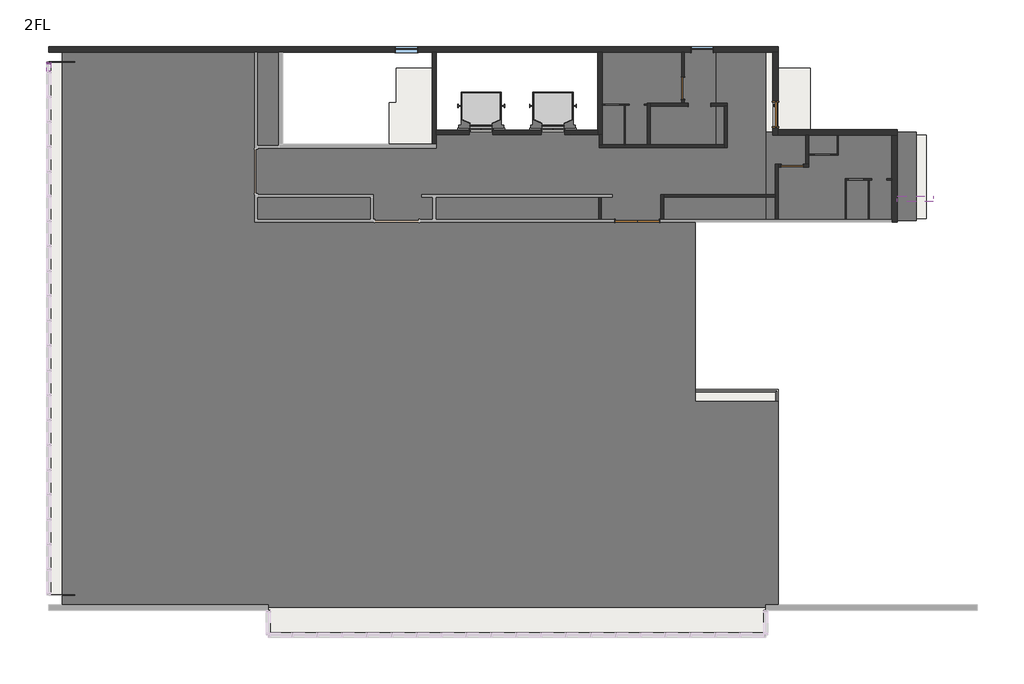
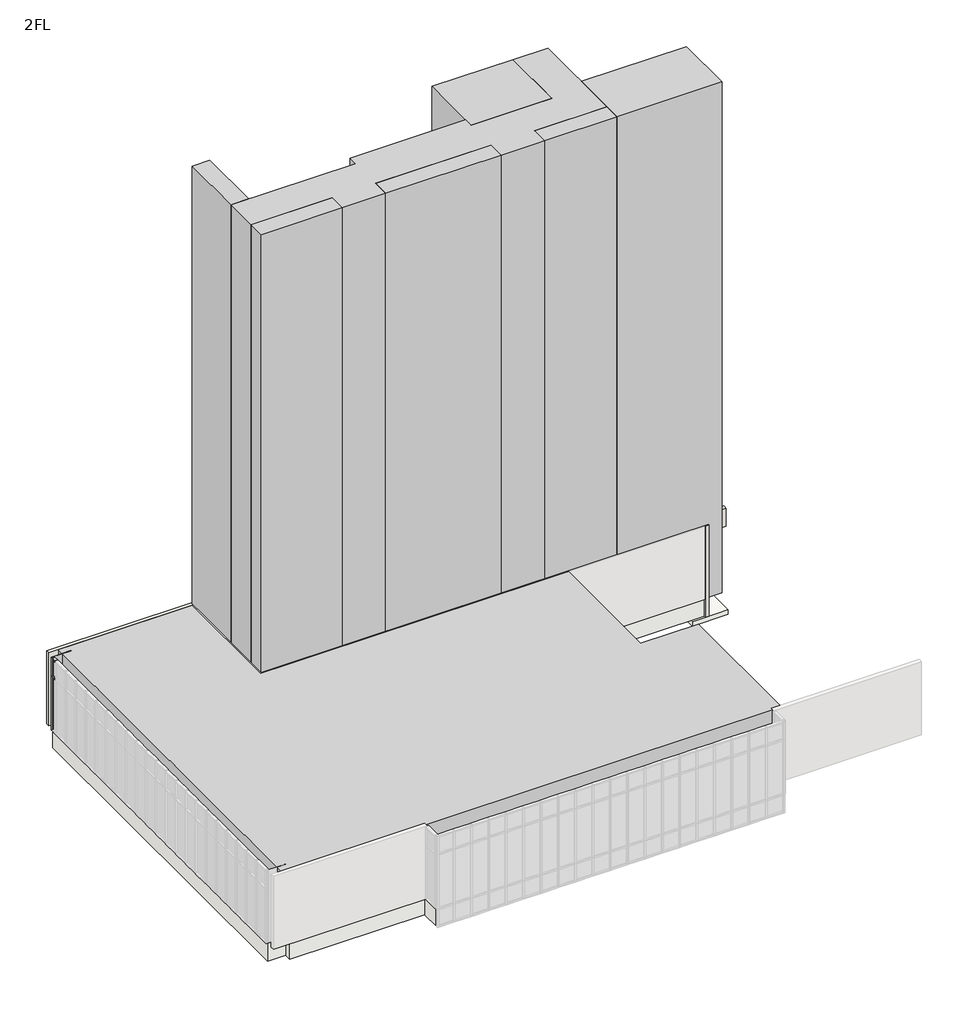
# One storey, part 4 of 4: 27 walls, 16 proxies, 5 doors, 4 flow terminals, 4 members, 3 slabs, 2 plates, 2 windows, 1 railing.
"""IFC4 building model written with IfcOpenShell, lengths in millimetres."""

from ifc_helpers import new_model, si_unit, frame, origin, place, context, project, spatial, polyline, outline, extrude, faceted_brep, transform, mapped, element, save
from components import specialty_equipment_d755c605, d150_h1500_9903e80e, w550_h2000_5054dc5e, w600_h2000_381ad4ff, door_1de376c6, w800h2000_3f366617, w800h2000_fc627520, w800h2000_d76b1b72, w900h2000_8d150256, flow_terminal_205c4ddb, member_70x150_1b280ac3, member_70x150_76429c73, member_70x150_a15bb337, member_70x150_da24903b, plate_d1366ea1, plate_ab860a3c, railing_652278a1, w800_h1100_2b598eca

model = new_model("IFC4")

# Units and contexts
model_context = context("Model", 3, world=origin())
ifc_project = project(units=[si_unit("LENGTHUNIT", "METRE", prefix="MILLI")], contexts=[model_context])

# Site, building, storey
site = spatial("IfcSite", under=ifc_project)
building = spatial("IfcBuilding", under=site)
storey = spatial("IfcBuildingStorey", under=building, Name="2FL", Elevation=4600.0)

# Proxies
placement = place(None, origin())
element("IfcBuildingElementProxy", 1, Name="i_便所 : i_便所", ObjectType="i_便所 : i_便所", at=placement, inside=storey, context=model_context, shape_type="SweptSolid", body=[
    extrude(outline(polyline([(-5195.9784025, 16649.6868987), (-5195.9784025, 13149.6868987), (-9395.9784025, 13149.6868987), (-9395.9784025, 16649.6868987), (-5195.9784025, 16649.6868987)])), frame((0.0, 0.0, 4600.0), z_axis=(0.0, 0.0, 1.0), x_axis=(1.0, 0.0, 0.0)), (0.0, 0.0, 1.0), 28000.0),
])
element("IfcBuildingElementProxy", 2, Name="i_便所1 : i_便所", ObjectType="i_便所1 : i_便所", at=placement, inside=storey, context=model_context, shape_type="SweptSolid", body=[
    extrude(outline(polyline([(2054.0215975, 13649.6868987), (2054.0215975, 10449.6868987), (-3395.9784025, 10449.6868987), (-3395.9784025, 13649.6868987), (2054.0215975, 13649.6868987)])), frame((0.0, 0.0, 4600.0), z_axis=(0.0, 0.0, 1.0), x_axis=(1.0, 0.0, 0.0)), (0.0, 0.0, 1.0), 28000.0),
])
element("IfcBuildingElementProxy", 3, Name="i_PS : i_PS", ObjectType="i_PS : i_PS", at=placement, inside=storey, context=model_context, shape_type="SweptSolid", body=[
    extrude(outline(polyline([(-20945.9784025, 16649.6868987), (-20945.9784025, 13149.6868987), (-21845.9784025, 13149.6868987), (-21845.9784025, 16649.6868987), (-20945.9784025, 16649.6868987)])), frame((0.0, 0.0, 4600.0), z_axis=(0.0, 0.0, 1.0), x_axis=(1.0, 0.0, 0.0)), (0.0, 0.0, 1.0), 28000.0),
])
element("IfcBuildingElementProxy", 4, Name="i_PS1 : i_PS", ObjectType="i_PS1 : i_PS", at=placement, inside=storey, context=model_context, shape_type="SweptSolid", body=[
    extrude(outline(polyline([(-17645.9784025, 11349.6868987), (-17645.9784025, 10449.6868987), (-21845.9784025, 10449.6868987), (-21845.9784025, 11349.6868987), (-17645.9784025, 11349.6868987)])), frame((0.0, 0.0, 4600.0), z_axis=(0.0, 0.0, 1.0), x_axis=(1.0, 0.0, 0.0)), (0.0, 0.0, 1.0), 28000.0),
])
element("IfcBuildingElementProxy", 5, Name="i_PS2 : i_PS", ObjectType="i_PS2 : i_PS", at=placement, inside=storey, context=model_context, shape_type="SweptSolid", body=[
    extrude(outline(polyline([(-9395.9784025, 11349.6868987), (-9395.9784025, 10449.6868987), (-15395.9784025, 10449.6868987), (-15395.9784025, 11349.6868987), (-9395.9784025, 11349.6868987)])), frame((0.0, 0.0, 4600.0), z_axis=(0.0, 0.0, 1.0), x_axis=(1.0, 0.0, 0.0)), (0.0, 0.0, 1.0), 28000.0),
])
element("IfcBuildingElementProxy", 6, Name="i_PS3 : i_PS", ObjectType="i_PS3 : i_PS", at=placement, inside=storey, context=model_context, shape_type="SweptSolid", body=[
    extrude(outline(polyline([(-3395.9784025, 11349.6868987), (-3395.9784025, 10449.6868987), (-7145.9784025, 10449.6868987), (-7145.9784025, 11349.6868987), (-3395.9784025, 11349.6868987)])), frame((0.0, 0.0, 4600.0), z_axis=(0.0, 0.0, 1.0), x_axis=(1.0, 0.0, 0.0)), (0.0, 0.0, 1.0), 28000.0),
])
element("IfcBuildingElementProxy", 7, Name="i_廊下 : i_廊下", ObjectType="i_廊下 : i_廊下", at=placement, inside=storey, context=model_context, shape_type="SweptSolid", body=[
    extrude(outline(polyline([(-15395.9784025, 13149.6868987), (-15395.9784025, 13649.6868987), (-9395.9784025, 13649.6868987), (-9395.9784025, 13149.6868987), (-5195.9784025, 13149.6868987), (-5195.9784025, 16649.6868987), (-3395.9784025, 16649.6868987), (-3395.9784025, 11349.6868987), (-7145.9784025, 11349.6868987), (-7145.9784025, 10449.6868987), (-9395.9784025, 10449.6868987), (-9395.9784025, 11349.6868987), (-15395.9784025, 11349.6868987), (-15395.9784025, 10449.6868987), (-17645.9784025, 10449.6868987), (-17645.9784025, 11349.6868987), (-21845.9784025, 11349.6868987), (-21845.9784025, 13149.6868987), (-15395.9784025, 13149.6868987)])), frame((0.0, 0.0, 4600.0), z_axis=(0.0, 0.0, 1.0), x_axis=(1.0, 0.0, 0.0)), (0.0, 0.0, 1.0), 28000.0),
])
element("IfcBuildingElementProxy", 8, Name="i_店舗 : i_店舗", ObjectType="i_店舗 : i_店舗", at=placement, inside=storey, context=model_context, shape_type="SweptSolid", body=[
    extrude(outline(polyline([(-21845.9784025, 16649.6868987), (-21845.9784025, 10449.6868987), (-5945.9784025, 10449.6868987), (-5945.9784025, 3899.6868987), (-2945.9784025, 3899.6868987), (-2945.9784025, -3550.3131013), (-28845.9784025, -3550.3131013), (-28845.9784025, 16649.6868987), (-21845.9784025, 16649.6868987)])), frame((0.0, 0.0, 4600.0), z_axis=(0.0, 0.0, 1.0), x_axis=(1.0, 0.0, 0.0)), (0.0, 0.0, 1.0), 4000.0),
])
specialty_equipment_shape = specialty_equipment_d755c605(model_context)
element("IfcBuildingElementProxy", 9, Name="エレベーター : 9人乗", ObjectType="エレベーター : 9人乗", at=placement, inside=storey, context=model_context, shape_type="MappedRepresentation", body=[
    mapped(specialty_equipment_shape, transform((-11220.9784025, 13649.6868987, 4600.0), x_axis=(1.0, 0.0, 0.0), y_axis=(0.0, 1.0, 0.0), z_axis=(0.0, 0.0, 1.0))),
])
element("IfcBuildingElementProxy", 10, Name="エレベーター : 9人乗", ObjectType="エレベーター : 9人乗", at=placement, inside=storey, context=model_context, shape_type="MappedRepresentation", body=[
    mapped(specialty_equipment_shape, transform((-13820.9784025, 13649.6868987, 4600.0), x_axis=(1.0, 0.0, 0.0), y_axis=(0.0, 1.0, 0.0), z_axis=(0.0, 0.0, 1.0))),
])
d150_h1500_shape = d150_h1500_9903e80e(model_context)
element("IfcBuildingElementProxy", 11, Name="r ライニング : D150 H1500", ObjectType="r ライニング : D150 H1500", at=placement, inside=storey, context=model_context, shape_type="MappedRepresentation", body=[
    mapped(d150_h1500_shape, transform((-736.1600971, 13521.6596024, 4600.0), x_axis=(1.0, 0.0, 0.0), y_axis=(0.0, 1.0, 0.0), z_axis=(0.0, 0.0, 1.0))),
])
w550_h2000_shape = w550_h2000_5054dc5e(model_context)
element("IfcBuildingElementProxy", 12, Name="r トイレブース扉 : W550 H2000", ObjectType="r トイレブース扉 : W550 H2000", at=placement, inside=storey, context=model_context, shape_type="MappedRepresentation", body=[
    mapped(w550_h2000_shape, transform((-8823.4784025, 14649.6868987, 4600.0), x_axis=(-1.0, 0.0, 0.0), y_axis=(0.0, -1.0, 0.0), z_axis=(0.0, 0.0, 1.0))),
])
element("IfcBuildingElementProxy", 13, Name="r トイレブース扉 : W550 H2000", ObjectType="r トイレブース扉 : W550 H2000", at=placement, inside=storey, context=model_context, shape_type="MappedRepresentation", body=[
    mapped(w550_h2000_shape, transform((-7940.9784025, 14649.6868987, 4600.0), x_axis=(-1.0, 0.0, 0.0), y_axis=(0.0, -1.0, 0.0), z_axis=(0.0, 0.0, 1.0))),
])
element("IfcBuildingElementProxy", 14, Name="r トイレブース扉 : W550 H2000", ObjectType="r トイレブース扉 : W550 H2000", at=placement, inside=storey, context=model_context, shape_type="MappedRepresentation", body=[
    mapped(w550_h2000_shape, transform((-5.9784025, 11949.6868987, 4600.0), x_axis=(-1.0, 0.0, 0.0), y_axis=(0.0, -1.0, 0.0), z_axis=(0.0, 0.0, 1.0))),
])
element("IfcBuildingElementProxy", 15, Name="r トイレブース扉 : W550 H2000", ObjectType="r トイレブース扉 : W550 H2000", at=placement, inside=storey, context=model_context, shape_type="MappedRepresentation", body=[
    mapped(w550_h2000_shape, transform((834.0215975, 11949.6868987, 4600.0), x_axis=(-1.0, 0.0, 0.0), y_axis=(0.0, -1.0, 0.0), z_axis=(0.0, 0.0, 1.0))),
])
w600_h2000_shape = w600_h2000_381ad4ff(model_context)
element("IfcBuildingElementProxy", 16, Name="r トイレブース扉 : W600 H2000", ObjectType="r トイレブース扉 : W600 H2000", at=placement, inside=storey, context=model_context, shape_type="MappedRepresentation", body=[
    mapped(w600_h2000_shape, transform((-1220.9784025, 12849.6868987, 4600.0), x_axis=(-1.0, 0.0, 0.0), y_axis=(0.0, -1.0, 0.0), z_axis=(0.0, 0.0, 1.0))),
])

# Doors
door_shape = door_1de376c6(model_context)
element("IfcDoor", 17, ObjectType="両開き戸 : 両開き：w1600h2000", at=placement, inside=storey, context=model_context, shape_type="MappedRepresentation", body=[
    mapped(door_shape, transform((-8054.4500107, 10449.6868987, 4600.0), x_axis=(-1.0, 0.0, 0.0), y_axis=(0.0, -1.0, 0.0), z_axis=(0.0, 0.0, 1.0))),
])
w800h2000_shape = w800h2000_3f366617(model_context)
element("IfcDoor", 18, ObjectType="片開き戸 : w800h2000", at=placement, inside=storey, context=model_context, shape_type="MappedRepresentation", body=[
    mapped(w800h2000_shape, transform((-2445.9784025, 12449.6868987, 4600.0), x_axis=(-1.0, 0.0, 0.0), y_axis=(0.0, -1.0, 0.0), z_axis=(0.0, 0.0, 1.0))),
])
w800h2000_2_shape = w800h2000_fc627520(model_context)
element("IfcDoor", 19, ObjectType="片開き戸 : w800h2000", at=placement, inside=storey, context=model_context, shape_type="MappedRepresentation", body=[
    mapped(w800h2000_2_shape, transform((-6395.9784025, 15249.6868987, 4600.0), x_axis=(0.0, -1.0, 0.0), y_axis=(1.0, 0.0, 0.0), z_axis=(0.0, 0.0, 1.0))),
])
w800h2000_3_shape = w800h2000_d76b1b72(model_context)
element("IfcDoor", 20, ObjectType="開口枠あり : w800h2000", at=placement, inside=storey, context=model_context, shape_type="MappedRepresentation", body=[
    mapped(w800h2000_3_shape, transform((-5795.9784025, 14649.6868987, 4600.0), x_axis=(-1.0, 0.0, 0.0), y_axis=(0.0, -1.0, 0.0), z_axis=(0.0, 0.0, 1.0))),
])
w900h2000_shape = w900h2000_8d150256(model_context)
element("IfcDoor", 21, ObjectType="片開き戸 : w900h2000", at=placement, inside=storey, context=model_context, shape_type="MappedRepresentation", body=[
    mapped(w900h2000_shape, transform((-3045.9784025, 14299.6868987, 4600.0), x_axis=(0.0, -1.0, 0.0), y_axis=(1.0, 0.0, 0.0), z_axis=(0.0, 0.0, 1.0))),
])

# Flow terminals
flow_terminal_shape = flow_terminal_205c4ddb(model_context)
element("IfcFlowTerminal", 22, ObjectType="洋式便器 - ライニング付 - 2D : タイプ 1", at=placement, inside=storey, context=model_context, shape_type="MappedRepresentation", body=[
    mapped(flow_terminal_shape, transform((-9045.9784025, 13149.6868987, 4600.0), x_axis=(1.0, 0.0, 0.0), y_axis=(0.0, 1.0, 0.0), z_axis=(0.0, 0.0, 1.0))),
])
element("IfcFlowTerminal", 23, ObjectType="洋式便器 - ライニング付 - 2D : タイプ 1", at=placement, inside=storey, context=model_context, shape_type="MappedRepresentation", body=[
    mapped(flow_terminal_shape, transform((-8205.9784025, 13149.6868987, 4600.0), x_axis=(1.0, 0.0, 0.0), y_axis=(0.0, 1.0, 0.0), z_axis=(0.0, 0.0, 1.0))),
])
element("IfcFlowTerminal", 24, ObjectType="洋式便器 - ライニング付 - 2D : タイプ 1", at=placement, inside=storey, context=model_context, shape_type="MappedRepresentation", body=[
    mapped(flow_terminal_shape, transform((-210.9784025, 10449.6868987, 4600.0), x_axis=(1.0, 0.0, 0.0), y_axis=(0.0, 1.0, 0.0), z_axis=(0.0, 0.0, 1.0))),
])
element("IfcFlowTerminal", 25, ObjectType="洋式便器 - ライニング付 - 2D : タイプ 1", at=placement, inside=storey, context=model_context, shape_type="MappedRepresentation", body=[
    mapped(flow_terminal_shape, transform((629.0215975, 10449.6868987, 4600.0), x_axis=(1.0, 0.0, 0.0), y_axis=(0.0, 1.0, 0.0), z_axis=(0.0, 0.0, 1.0))),
])

# Members
member_70x150_shape = member_70x150_1b280ac3(model_context)
element("IfcMember", 26, ObjectType="長方形のマリオン : 70x150", at=placement, inside=storey, context=model_context, shape_type="MappedRepresentation", body=[
    mapped(member_70x150_shape, transform((-29345.9784025, 16199.6868987, 4600.0), x_axis=(0.0, 1.0, 0.0), y_axis=(1.0, 0.0, 0.0), z_axis=(0.0, 0.0, -1.0))),
])
member_70x150_2_shape = member_70x150_76429c73(model_context)
element("IfcMember", 27, ObjectType="長方形のマリオン : 70x150", at=placement, inside=storey, context=model_context, shape_type="MappedRepresentation", body=[
    mapped(member_70x150_2_shape, transform((-29345.9784025, 16199.6868987, 7600.0), x_axis=(0.0, 1.0, 0.0), y_axis=(1.0, 0.0, 0.0), z_axis=(0.0, 0.0, -1.0))),
])
member_70x150_3_shape = member_70x150_a15bb337(model_context)
element("IfcMember", 28, ObjectType="長方形のマリオン : 70x150", at=placement, inside=storey, context=model_context, shape_type="MappedRepresentation", body=[
    mapped(member_70x150_3_shape, transform((-29345.9784025, 16129.6868987, 8600.0), x_axis=(0.0, 0.0, 1.0), y_axis=(1.0, 0.0, 0.0), z_axis=(0.0, 1.0, 0.0))),
])
member_70x150_4_shape = member_70x150_da24903b(model_context)
element("IfcMember", 29, ObjectType="長方形のマリオン : 70x150", at=placement, inside=storey, context=model_context, shape_type="MappedRepresentation", body=[
    mapped(member_70x150_4_shape, transform((-29345.9784025, 16129.6868987, 7600.0), x_axis=(0.0, 0.0, 1.0), y_axis=(1.0, 0.0, 0.0), z_axis=(0.0, 1.0, 0.0))),
])

# Plates
plate_shape = plate_d1366ea1(model_context)
element("IfcPlate", 30, ObjectType="システム パネル : 標準", at=placement, inside=storey, context=model_context, shape_type="MappedRepresentation", body=[
    mapped(plate_shape, transform((-28895.9784025, 16199.6868987, 4600.0), x_axis=(1.0, 0.0, 0.0), y_axis=(0.0, 1.0, 0.0), z_axis=(0.0, 0.0, 1.0))),
])
plate_2_shape = plate_ab860a3c(model_context)
element("IfcPlate", 31, ObjectType="システム パネル : 標準", at=placement, inside=storey, context=model_context, shape_type="MappedRepresentation", body=[
    mapped(plate_2_shape, transform((-28420.9784025, 16199.6868987, 4600.0), x_axis=(1.0, 0.0, 0.0), y_axis=(0.0, 1.0, 0.0), z_axis=(0.0, 0.0, 1.0))),
])

# Railing
railing_shape = railing_652278a1(model_context)
element("IfcRailing", 32, ObjectType="r パイプ H1100", at=placement, inside=storey, context=model_context, shape_type="MappedRepresentation", body=[
    mapped(railing_shape, transform((0.0, 0.0, 0.0), x_axis=(1.0, 0.0, 0.0), y_axis=(0.0, 1.0, 0.0), z_axis=(0.0, 0.0, 1.0))),
])

# Slabs
element("IfcSlab", 33, ObjectType="企画1000", at=placement, inside=storey, context=model_context, shape_type="SweptSolid", body=[
    extrude(outline(polyline([(-20870.9784025, 16549.6868987), (-20870.9784025, 13224.6868987), (-17020.9784025, 13224.6868987), (-17020.9784025, 14724.6868987), (-16760.9784025, 14724.6868987), (-16760.9784025, 15974.6868987), (-15470.9784025, 15974.6868987), (-15470.9784025, 13724.6868987), (-9470.9784025, 13724.6868987), (-9470.9784025, 16549.6868987), (-3145.9784025, 16549.6868987), (-3145.9784025, 13549.6868987), (1154.0215975, 13549.6868987), (1154.0215975, 10499.6868987), (-6395.9784025, 10499.6868987), (-6395.9784025, 4349.6868987), (-2945.9784025, 4349.6868987), (-2945.9784025, -3450.3131013), (-3395.9784025, -3450.3131013), (-3395.9784025, -4545.3131013), (-21395.9784025, -4545.3131013), (-21395.9784025, -3450.3131013), (-28395.9784025, -3450.3131013), (-28395.9784025, -3100.3131013), (-29345.9784025, -3100.3131013), (-29345.9784025, 16199.6868987), (-28395.9784025, 16199.6868987), (-28395.9784025, 16549.6868987), (-20870.9784025, 16549.6868987)])), frame((0.0, 0.0, 3600.0), z_axis=(0.0, 0.0, 1.0), x_axis=(1.0, 0.0, 0.0)), (0.0, 0.0, 1.0), 1000.0),
])
element("IfcSlab", 34, ObjectType="RC150", at=placement, inside=storey, context=model_context, shape_type="SweptSolid", body=[
    extrude(outline(polyline([(-1795.9784025, 13749.6868987), (-2945.9784025, 13749.6868987), (-2945.9784025, 15979.6868987), (-1795.9784025, 15979.6868987), (-1795.9784025, 13749.6868987)])), frame((0.0, 0.0, 4450.0), z_axis=(0.0, 0.0, 1.0), x_axis=(1.0, 0.0, 0.0)), (0.0, 0.0, 1.0), 150.0),
])
element("IfcSlab", 35, ObjectType="RC250", at=placement, inside=storey, context=model_context, shape_type="SweptSolid", body=[
    extrude(outline(polyline([(2404.0215975, 13549.6868987), (2404.0215975, 10524.6868987), (554.0215975, 10524.6868987), (554.0215975, 13549.6868987), (2404.0215975, 13549.6868987)])), frame((0.0, 0.0, 3250.0), z_axis=(0.0, 0.0, 1.0), x_axis=(1.0, 0.0, 0.0)), (0.0, 0.0, 1.0), 250.0),
])

# Walls
element("IfcWall", 36, ObjectType="標準200", at=placement, inside=storey, context=model_context, shape_type="Brep", body=[
    faceted_brep([(-29345.9784025, 16549.6868987, 4600.0), (-28845.9784025, 16549.6868987, 4600.0), (-28745.9784025, 16549.6868987, 4600.0), (-21895.9784025, 16549.6868987, 4600.0), (-21795.9784025, 16549.6868987, 4600.0), (-21020.9784025, 16549.6868987, 4600.0), (-20870.9784025, 16549.6868987, 4600.0), (-15470.9784025, 16549.6868987, 4600.0), (-15320.9784025, 16549.6868987, 4600.0), (-9470.9784025, 16549.6868987, 4600.0), (-9320.9784025, 16549.6868987, 4600.0), (-6445.9784025, 16549.6868987, 4600.0), (-6345.9784025, 16549.6868987, 4600.0), (-3145.9784025, 16549.6868987, 4600.0), (-2945.9784025, 16549.6868987, 4600.0), (-2945.9784025, 16549.6868987, 8600.0), (-3145.9784025, 16549.6868987, 8600.0), (-6345.9784025, 16549.6868987, 8600.0), (-6445.9784025, 16549.6868987, 8600.0), (-9320.9784025, 16549.6868987, 8600.0), (-9470.9784025, 16549.6868987, 8600.0), (-15320.9784025, 16549.6868987, 8600.0), (-15470.9784025, 16549.6868987, 8600.0), (-20870.9784025, 16549.6868987, 8600.0), (-21020.9784025, 16549.6868987, 8600.0), (-21795.9784025, 16549.6868987, 8600.0), (-21895.9784025, 16549.6868987, 8600.0), (-29345.9784025, 16549.6868987, 8600.0), (-16820.9784025, 16549.6868987, 6625.0), (-15970.9784025, 16549.6868987, 6625.0), (-15970.9784025, 16549.6868987, 5475.0), (-16820.9784025, 16549.6868987, 5475.0), (-6120.9784025, 16549.6868987, 6625.0), (-5270.9784025, 16549.6868987, 6625.0), (-5270.9784025, 16549.6868987, 5475.0), (-6120.9784025, 16549.6868987, 5475.0), (-29345.9784025, 16749.6868987, 4600.0), (-29345.9784025, 16749.6868987, 8600.0), (-2945.9784025, 16749.6868987, 8600.0), (-2945.9784025, 16749.6868987, 4600.0), (-16820.9784025, 16749.6868987, 6625.0), (-16820.9784025, 16749.6868987, 5475.0), (-15970.9784025, 16749.6868987, 5475.0), (-15970.9784025, 16749.6868987, 6625.0), (-6120.9784025, 16749.6868987, 6625.0), (-6120.9784025, 16749.6868987, 5475.0), (-5270.9784025, 16749.6868987, 5475.0), (-5270.9784025, 16749.6868987, 6625.0)], [[[0, 1, 2, 3, 4, 5, 6, 7, 8, 9, 10, 11, 12, 13, 14, 15, 16, 17, 18, 19, 20, 21, 22, 23, 24, 25, 26, 27], [28, 29, 30, 31], [32, 33, 34, 35]], [[36, 37, 38, 39], [40, 41, 42, 43], [44, 45, 46, 47]], [[14, 13, 12, 11, 10, 9, 8, 7, 6, 5, 4, 3, 2, 1, 0, 36, 39]], [[27, 26, 25, 24, 23, 22, 21, 20, 19, 18, 17, 16, 15, 38, 37]], [[0, 27, 37, 36]], [[15, 14, 39, 38]], [[41, 40, 28, 31]], [[42, 41, 31, 30]], [[43, 42, 30, 29]], [[40, 43, 29, 28]], [[45, 44, 32, 35]], [[46, 45, 35, 34]], [[47, 46, 34, 33]], [[44, 47, 33, 32]]]),
])
element("IfcWall", 37, ObjectType="標準200", at=placement, inside=storey, context=model_context, shape_type="Brep", body=[
    faceted_brep([(-3145.9784025, 16549.6868987, 4600.0), (-3145.9784025, 14774.6868987, 4600.0), (-3145.9784025, 14774.6868987, 6625.0), (-3145.9784025, 13824.6868987, 6625.0), (-3145.9784025, 13824.6868987, 4600.0), (-3145.9784025, 13549.6868987, 4600.0), (-3145.9784025, 13549.6868987, 8600.0), (-3145.9784025, 16549.6868987, 8600.0), (-2945.9784025, 14774.6868987, 6625.0), (-2945.9784025, 14774.6868987, 4600.0), (-2945.9784025, 16549.6868987, 4600.0), (-2945.9784025, 16549.6868987, 8600.0), (-2945.9784025, 13749.6868987, 8600.0), (-2945.9784025, 13549.6868987, 8600.0), (-2945.9784025, 13549.6868987, 4600.0), (-2945.9784025, 13824.6868987, 4600.0), (-2945.9784025, 13824.6868987, 6625.0)], [[[0, 1, 2, 3, 4, 5, 6, 7]], [[8, 9, 10, 11, 12, 13, 14, 15, 16]], [[15, 14, 5, 4]], [[10, 9, 1, 0]], [[7, 6, 13, 12, 11]], [[0, 7, 11, 10]], [[6, 5, 14, 13]], [[4, 3, 16, 15]], [[2, 1, 9, 8]], [[3, 2, 8, 16]]]),
])
element("IfcWall", 38, ObjectType="標準200", at=placement, inside=storey, context=model_context, shape_type="Brep", body=[
    faceted_brep([(-2945.9784025, 13549.6868987, 3450.0), (1354.0215975, 13549.6868987, 3450.0), (1354.0215975, 13549.6868987, 3600.0), (1354.0215975, 13549.6868987, 8600.0), (1154.0215975, 13549.6868987, 8600.0), (-1845.9784025, 13549.6868987, 8600.0), (-1945.9784025, 13549.6868987, 8600.0), (-2945.9784025, 13549.6868987, 8600.0), (-2945.9784025, 13549.6868987, 4600.0), (-2945.9784025, 13749.6868987, 3450.0), (-2945.9784025, 13749.6868987, 8600.0), (1354.0215975, 13749.6868987, 8600.0), (1354.0215975, 13749.6868987, 3450.0)], [[[0, 1, 2, 3, 4, 5, 6, 7, 8]], [[9, 10, 11, 12]], [[1, 0, 9, 12]], [[7, 6, 5, 4, 3, 11, 10]], [[0, 8, 7, 10, 9]], [[3, 2, 1, 12, 11]]]),
])
element("IfcWall", 39, ObjectType="標準200", at=placement, inside=storey, context=model_context, shape_type="Brep", body=[
    faceted_brep([(1154.0215975, 13549.6868987, 3600.0), (1154.0215975, 11349.6868987, 3600.0), (1154.0215975, 10524.6868987, 3600.0), (1154.0215975, 10399.6868987, 3600.0), (1154.0215975, 10399.6868987, 4600.0), (1154.0215975, 10399.6868987, 8600.0), (1154.0215975, 10499.6868987, 8600.0), (1154.0215975, 13549.6868987, 8600.0), (1354.0215975, 13549.6868987, 3600.0), (1354.0215975, 13549.6868987, 8600.0), (1354.0215975, 11349.6868987, 8600.0), (1354.0215975, 11149.6868987, 8600.0), (1354.0215975, 10399.6868987, 8600.0), (1354.0215975, 10399.6868987, 3600.0), (1354.0215975, 10524.6868987, 3600.0), (1354.0215975, 11349.6868987, 3600.0)], [[[0, 1, 2, 3, 4, 5, 6, 7]], [[8, 9, 10, 11, 12, 13, 14, 15]], [[3, 2, 1, 0, 8, 15, 14, 13]], [[7, 6, 5, 12, 11, 10, 9]], [[0, 7, 9, 8]], [[5, 4, 3, 13, 12]]]),
])
element("IfcWall", 40, ObjectType="標準200", at=placement, inside=storey, context=model_context, shape_type="Brep", body=[
    faceted_brep([(1354.0215975, 11149.6868987, 7600.0), (2054.0215975, 11149.6868987, 7600.0), (2661.9595949, 11149.6868987, 7600.0), (2661.9595949, 11149.6868987, 8600.0), (1354.0215975, 11149.6868987, 8600.0), (1354.0215975, 11349.6868987, 7600.0), (1354.0215975, 11349.6868987, 8600.0), (2661.9595949, 11349.6868987, 8600.0), (2661.9595949, 11349.6868987, 7600.0), (2054.0215975, 11349.6868987, 7600.0)], [[[0, 1, 2, 3, 4]], [[5, 6, 7, 8, 9]], [[2, 1, 0, 5, 9, 8]], [[3, 2, 8, 7]], [[4, 3, 7, 6]], [[0, 4, 6, 5]]]),
])
element("IfcWall", 41, ObjectType="標準150", at=placement, inside=storey, context=model_context, shape_type="Brep", body=[
    faceted_brep([(-9470.9784025, 16549.6868987, 4600.0), (-9470.9784025, 13724.6868987, 4600.0), (-9470.9784025, 13574.6868987, 4600.0), (-9470.9784025, 13574.6868987, 8600.0), (-9470.9784025, 13724.6868987, 8600.0), (-9470.9784025, 16549.6868987, 8600.0), (-9320.9784025, 16549.6868987, 4600.0), (-9320.9784025, 16549.6868987, 8600.0), (-9320.9784025, 13574.6868987, 8600.0), (-9320.9784025, 13574.6868987, 4600.0), (-9320.9784025, 14629.6868987, 4600.0), (-9320.9784025, 14669.6868987, 4600.0), (-9420.9784025, 13574.6868987, 4600.0), (-9420.9784025, 13574.6868987, 8600.0)], [[[0, 1, 2, 3, 4, 5]], [[6, 7, 8, 9, 10, 11]], [[2, 1, 0, 6, 11, 10, 9, 12]], [[5, 4, 3, 13, 8, 7]], [[0, 5, 7, 6]], [[3, 2, 12, 9, 8, 13]]]),
])
element("IfcWall", 42, ObjectType="標準150", at=placement, inside=storey, context=model_context, shape_type="SweptSolid", body=[
    extrude(outline(polyline([(8600.0, -9470.9784025), (8600.0, -15320.9784025), (4600.0, -15320.9784025), (4600.0, -14120.9784025), (6725.0, -14120.9784025), (6725.0, -13270.9784025), (4600.0, -13270.9784025), (4600.0, -11520.9784025), (6725.0, -11520.9784025), (6725.0, -10670.9784025), (4600.0, -10670.9784025), (4600.0, -9470.9784025), (8600.0, -9470.9784025)])), frame((0.0, 13574.6868987, 0.0), z_axis=(0.0, 1.0, 0.0), x_axis=(0.0, 0.0, 1.0)), (0.0, 0.0, 1.0), 150.0),
])
element("IfcWall", 43, ObjectType="標準150", at=placement, inside=storey, context=model_context, shape_type="Brep", body=[
    faceted_brep([(-15320.9784025, 13224.6868987, 4600.0), (-15320.9784025, 13574.6868987, 4600.0), (-15320.9784025, 13724.6868987, 4600.0), (-15320.9784025, 16549.6868987, 4600.0), (-15320.9784025, 16549.6868987, 8600.0), (-15320.9784025, 13724.6868987, 8600.0), (-15320.9784025, 13574.6868987, 8600.0), (-15320.9784025, 13224.6868987, 8600.0), (-15470.9784025, 13224.6868987, 4600.0), (-15470.9784025, 13224.6868987, 8600.0), (-15470.9784025, 16549.6868987, 8600.0), (-15470.9784025, 16549.6868987, 4600.0)], [[[0, 1, 2, 3, 4, 5, 6, 7]], [[8, 9, 10, 11]], [[3, 2, 1, 0, 8, 11]], [[7, 6, 5, 4, 10, 9]], [[4, 3, 11, 10]], [[0, 7, 9, 8]]]),
])
element("IfcWall", 44, ObjectType="標準100", at=placement, inside=storey, context=model_context, shape_type="Brep", body=[
    faceted_brep([(-2945.9784025, 10499.6868987, 4600.0), (-2945.9784025, 12399.6868987, 4600.0), (-2945.9784025, 12499.6868987, 4600.0), (-2945.9784025, 12499.6868987, 8600.0), (-2945.9784025, 12399.6868987, 8600.0), (-2945.9784025, 10499.6868987, 8600.0), (-3045.9784025, 10499.6868987, 4600.0), (-3045.9784025, 10499.6868987, 8600.0), (-3045.9784025, 11299.6868987, 8600.0), (-3045.9784025, 11399.6868987, 8600.0), (-3045.9784025, 12499.6868987, 8600.0), (-3045.9784025, 12499.6868987, 4600.0), (-3045.9784025, 11399.6868987, 4600.0), (-3045.9784025, 11299.6868987, 4600.0), (-3045.9784025, 10524.6868987, 4600.0)], [[[0, 1, 2, 3, 4, 5]], [[6, 7, 8, 9, 10, 11, 12, 13, 14]], [[2, 1, 0, 6, 14, 13, 12, 11]], [[5, 4, 3, 10, 9, 8, 7]], [[0, 5, 7, 6]], [[3, 2, 11, 10]]]),
])
element("IfcWall", 45, ObjectType="標準100", at=placement, inside=storey, context=model_context, shape_type="Brep", body=[
    faceted_brep([(-7095.9784025, 10499.6868987, 4600.0), (-7095.9784025, 11299.6868987, 4600.0), (-7095.9784025, 11399.6868987, 4600.0), (-7095.9784025, 11399.6868987, 8600.0), (-7095.9784025, 11299.6868987, 8600.0), (-7095.9784025, 10499.6868987, 8600.0), (-7195.9784025, 10499.6868987, 4600.0), (-7195.9784025, 10499.6868987, 8600.0), (-7195.9784025, 11399.6868987, 8600.0), (-7195.9784025, 11399.6868987, 4600.0)], [[[0, 1, 2, 3, 4, 5]], [[6, 7, 8, 9]], [[2, 1, 0, 6, 9]], [[5, 4, 3, 8, 7]], [[0, 5, 7, 6]], [[3, 2, 9, 8]]]),
])
element("IfcWall", 46, ObjectType="標準100", at=placement, inside=storey, context=model_context, shape_type="Brep", body=[
    faceted_brep([(-7095.9784025, 11299.6868987, 4600.0), (-3145.9784025, 11299.6868987, 4600.0), (-3045.9784025, 11299.6868987, 4600.0), (-3045.9784025, 11299.6868987, 8600.0), (-7095.9784025, 11299.6868987, 8600.0), (-7095.9784025, 11399.6868987, 4600.0), (-7095.9784025, 11399.6868987, 8600.0), (-3045.9784025, 11399.6868987, 8600.0), (-3045.9784025, 11399.6868987, 4600.0)], [[[0, 1, 2, 3, 4]], [[5, 6, 7, 8]], [[2, 1, 0, 5, 8]], [[4, 3, 7, 6]], [[0, 4, 6, 5]], [[3, 2, 8, 7]]]),
])
element("IfcWall", 47, ObjectType="標準100", at=placement, inside=storey, context=model_context, shape_type="Brep", body=[
    faceted_brep([(-9445.9784025, 11299.6868987, 4600.0), (-9445.9784025, 10524.6868987, 4600.0), (-9445.9784025, 10499.6868987, 4600.0), (-9445.9784025, 10499.6868987, 8600.0), (-9445.9784025, 11299.6868987, 8600.0), (-9345.9784025, 11299.6868987, 4600.0), (-9345.9784025, 11299.6868987, 8600.0), (-9345.9784025, 10499.6868987, 8600.0), (-9345.9784025, 10499.6868987, 4600.0), (-9345.9784025, 10524.6868987, 4600.0)], [[[0, 1, 2, 3, 4]], [[5, 6, 7, 8, 9]], [[2, 1, 0, 5, 9, 8]], [[4, 3, 7, 6]], [[3, 2, 8, 7]], [[0, 4, 6, 5]]]),
])
element("IfcWall", 48, ObjectType="標準100", at=placement, inside=storey, context=model_context, shape_type="SweptSolid", body=[
    extrude(outline(polyline([(16549.6868987, 4600.0), (15674.6868987, 4600.0), (15674.6868987, 6625.0), (14824.6868987, 6625.0), (14824.6868987, 4600.0), (14699.6868987, 4600.0), (14699.6868987, 8600.0), (16549.6868987, 8600.0), (16549.6868987, 4600.0)])), frame((-6445.9784025, 0.0, 0.0), z_axis=(1.0, 0.0, 0.0), x_axis=(0.0, 1.0, 0.0)), (0.0, 0.0, 1.0), 100.0),
])
element("IfcWall", 49, ObjectType="標準100", at=placement, inside=storey, context=model_context, shape_type="Brep", body=[
    faceted_brep([(-4895.9784025, 13199.6868987, 4600.0), (-7580.9784025, 13199.6868987, 4600.0), (-7680.9784025, 13199.6868987, 4600.0), (-8480.9784025, 13199.6868987, 4600.0), (-8520.9784025, 13199.6868987, 4600.0), (-9320.9784025, 13199.6868987, 4600.0), (-9420.9784025, 13199.6868987, 4600.0), (-9420.9784025, 13199.6868987, 8600.0), (-9320.9784025, 13199.6868987, 8600.0), (-7680.9784025, 13199.6868987, 8600.0), (-7580.9784025, 13199.6868987, 8600.0), (-4895.9784025, 13199.6868987, 8600.0), (-4895.9784025, 13099.6868987, 4600.0), (-4895.9784025, 13099.6868987, 8600.0), (-9420.9784025, 13099.6868987, 8600.0), (-9420.9784025, 13099.6868987, 4600.0)], [[[0, 1, 2, 3, 4, 5, 6, 7, 8, 9, 10, 11]], [[12, 13, 14, 15]], [[6, 5, 4, 3, 2, 1, 0, 12, 15]], [[11, 10, 9, 8, 7, 14, 13]], [[0, 11, 13, 12]], [[7, 6, 15, 14]]]),
])
element("IfcWall", 50, ObjectType="標準100", at=placement, inside=storey, context=model_context, shape_type="SweptSolid", body=[
    extrude(outline(polyline([(-9320.9784025, 13574.6868987), (-9320.9784025, 13199.6868987), (-9420.9784025, 13199.6868987), (-9420.9784025, 13574.6868987), (-9320.9784025, 13574.6868987)])), frame((0.0, 0.0, 4600.0), z_axis=(0.0, 0.0, 1.0), x_axis=(1.0, 0.0, 0.0)), (0.0, 0.0, 1.0), 4000.0),
])
element("IfcWall", 51, ObjectType="標準100", at=placement, inside=storey, context=model_context, shape_type="Brep", body=[
    faceted_brep([(-7580.9784025, 13199.6868987, 4600.0), (-7580.9784025, 14599.6868987, 4600.0), (-7580.9784025, 14699.6868987, 4600.0), (-7580.9784025, 14699.6868987, 8600.0), (-7580.9784025, 14599.6868987, 8600.0), (-7580.9784025, 13199.6868987, 8600.0), (-7680.9784025, 13199.6868987, 4600.0), (-7680.9784025, 13199.6868987, 8600.0), (-7680.9784025, 14699.6868987, 8600.0), (-7680.9784025, 14699.6868987, 4600.0), (-7680.9784025, 14669.6868987, 4600.0), (-7680.9784025, 14629.6868987, 4600.0)], [[[0, 1, 2, 3, 4, 5]], [[6, 7, 8, 9, 10, 11]], [[2, 1, 0, 6, 11, 10, 9]], [[5, 4, 3, 8, 7]], [[0, 5, 7, 6]], [[3, 2, 9, 8]]]),
])
element("IfcWall", 52, ObjectType="標準100", at=placement, inside=storey, context=model_context, shape_type="Brep", body=[
    faceted_brep([(-5370.9784025, 14599.6868987, 6625.0), (-5370.9784025, 14599.6868987, 4600.0), (-4895.9784025, 14599.6868987, 4600.0), (-4795.9784025, 14599.6868987, 4600.0), (-4795.9784025, 14599.6868987, 8600.0), (-4895.9784025, 14599.6868987, 8600.0), (-7580.9784025, 14599.6868987, 8600.0), (-7580.9784025, 14599.6868987, 4600.0), (-6220.9784025, 14599.6868987, 4600.0), (-6220.9784025, 14599.6868987, 6625.0), (-4795.9784025, 14699.6868987, 4600.0), (-5370.9784025, 14699.6868987, 4600.0), (-5370.9784025, 14699.6868987, 6625.0), (-6220.9784025, 14699.6868987, 6625.0), (-6220.9784025, 14699.6868987, 4600.0), (-6345.9784025, 14699.6868987, 4600.0), (-6445.9784025, 14699.6868987, 4600.0), (-7580.9784025, 14699.6868987, 4600.0), (-7580.9784025, 14699.6868987, 8600.0), (-6445.9784025, 14699.6868987, 8600.0), (-6345.9784025, 14699.6868987, 8600.0), (-4795.9784025, 14699.6868987, 8600.0)], [[[0, 1, 2, 3, 4, 5, 6, 7, 8, 9]], [[10, 11, 12, 13, 14, 15, 16, 17, 18, 19, 20, 21]], [[8, 7, 17, 16, 15, 14]], [[3, 2, 1, 11, 10]], [[6, 5, 4, 21, 20, 19, 18]], [[4, 3, 10, 21]], [[14, 13, 9, 8]], [[12, 11, 1, 0]], [[13, 12, 0, 9]], [[6, 18, 17, 7]]]),
])
element("IfcWall", 53, ObjectType="標準100", at=placement, inside=storey, context=model_context, shape_type="Brep", body=[
    faceted_brep([(-4895.9784025, 14599.6868987, 4600.0), (-4895.9784025, 13199.6868987, 4600.0), (-4895.9784025, 13099.6868987, 4600.0), (-4895.9784025, 13099.6868987, 8600.0), (-4895.9784025, 13199.6868987, 8600.0), (-4895.9784025, 14599.6868987, 8600.0), (-4795.9784025, 14599.6868987, 4600.0), (-4795.9784025, 14599.6868987, 8600.0), (-4795.9784025, 13099.6868987, 8600.0), (-4795.9784025, 13099.6868987, 4600.0)], [[[0, 1, 2, 3, 4, 5]], [[6, 7, 8, 9]], [[2, 1, 0, 6, 9]], [[5, 4, 3, 8, 7]], [[3, 2, 9, 8]], [[0, 5, 7, 6]]]),
])
element("IfcWall", 54, ObjectType="標準100", at=placement, inside=storey, context=model_context, shape_type="Brep", body=[
    faceted_brep([(-2020.9784025, 12399.6868987, 6625.0), (-2020.9784025, 12399.6868987, 4600.0), (-1845.9784025, 12399.6868987, 4600.0), (-1845.9784025, 12399.6868987, 8600.0), (-2945.9784025, 12399.6868987, 8600.0), (-2945.9784025, 12399.6868987, 4600.0), (-2870.9784025, 12399.6868987, 4600.0), (-2870.9784025, 12399.6868987, 6625.0), (-1845.9784025, 12499.6868987, 4600.0), (-1945.9784025, 12499.6868987, 4600.0), (-2020.9784025, 12499.6868987, 4600.0), (-2020.9784025, 12499.6868987, 6625.0), (-2870.9784025, 12499.6868987, 6625.0), (-2870.9784025, 12499.6868987, 4600.0), (-2945.9784025, 12499.6868987, 4600.0), (-2945.9784025, 12499.6868987, 8600.0), (-1945.9784025, 12499.6868987, 8600.0), (-1845.9784025, 12499.6868987, 8600.0)], [[[0, 1, 2, 3, 4, 5, 6, 7]], [[8, 9, 10, 11, 12, 13, 14, 15, 16, 17]], [[6, 5, 14, 13]], [[2, 1, 10, 9, 8]], [[4, 3, 17, 16, 15]], [[3, 2, 8, 17]], [[5, 4, 15, 14]], [[13, 12, 7, 6]], [[11, 10, 1, 0]], [[12, 11, 0, 7]]]),
])
element("IfcWall", 55, ObjectType="標準100", at=placement, inside=storey, context=model_context, shape_type="Brep", body=[
    faceted_brep([(-1845.9784025, 12499.6868987, 4600.0), (-1845.9784025, 12829.6868987, 4600.0), (-1845.9784025, 12869.6868987, 4600.0), (-1845.9784025, 13549.6868987, 4600.0), (-1845.9784025, 13549.6868987, 8600.0), (-1845.9784025, 12499.6868987, 8600.0), (-1945.9784025, 12499.6868987, 4600.0), (-1945.9784025, 12499.6868987, 8600.0), (-1945.9784025, 13549.6868987, 8600.0), (-1945.9784025, 13549.6868987, 4600.0)], [[[0, 1, 2, 3, 4, 5]], [[6, 7, 8, 9]], [[3, 2, 1, 0, 6, 9]], [[5, 4, 8, 7]], [[0, 5, 7, 6]], [[4, 3, 9, 8]]]),
])
element("IfcWall", 56, ObjectType="トイレブース 40", at=placement, inside=storey, context=model_context, shape_type="SweptSolid", body=[
    extrude(outline(polyline([(-8480.9784025, 14629.6868987), (-8480.9784025, 13199.6868987), (-8520.9784025, 13199.6868987), (-8520.9784025, 14629.6868987), (-8480.9784025, 14629.6868987)])), frame((0.0, 0.0, 4600.0), z_axis=(0.0, 0.0, 1.0), x_axis=(1.0, 0.0, 0.0)), (0.0, 0.0, 1.0), 2000.0),
])
element("IfcWall", 57, ObjectType="トイレブース 40", at=placement, inside=storey, context=model_context, shape_type="Brep", body=[
    faceted_brep([(-9320.9784025, 14629.6868987, 6600.0), (-9320.9784025, 14629.6868987, 4600.0), (-9223.4784025, 14629.6868987, 4600.0), (-9223.4784025, 14629.6868987, 6600.0), (-9320.9784025, 14669.6868987, 4600.0), (-9320.9784025, 14669.6868987, 6600.0), (-9223.4784025, 14669.6868987, 6600.0), (-9223.4784025, 14669.6868987, 4600.0)], [[[0, 1, 2, 3]], [[4, 5, 6, 7]], [[1, 4, 7, 2]], [[5, 0, 3, 6]], [[1, 0, 5, 4]], [[3, 2, 7, 6]]]),
    faceted_brep([(-7680.9784025, 14629.6868987, 4600.0), (-7680.9784025, 14629.6868987, 6600.0), (-7790.9784025, 14629.6868987, 6600.0), (-7790.9784025, 14629.6868987, 4600.0), (-7680.9784025, 14669.6868987, 6600.0), (-7680.9784025, 14669.6868987, 4600.0), (-7790.9784025, 14669.6868987, 4600.0), (-7790.9784025, 14669.6868987, 6600.0)], [[[0, 1, 2, 3]], [[4, 5, 6, 7]], [[5, 0, 3, 6]], [[1, 4, 7, 2]], [[1, 0, 5, 4]], [[3, 2, 7, 6]]]),
    faceted_brep([(-8673.4784025, 14629.6868987, 6600.0), (-8673.4784025, 14629.6868987, 4600.0), (-8520.9784025, 14629.6868987, 4600.0), (-8480.9784025, 14629.6868987, 4600.0), (-8340.9784025, 14629.6868987, 4600.0), (-8340.9784025, 14629.6868987, 6600.0), (-8480.9784025, 14629.6868987, 6600.0), (-8520.9784025, 14629.6868987, 6600.0), (-8673.4784025, 14669.6868987, 4600.0), (-8673.4784025, 14669.6868987, 6600.0), (-8340.9784025, 14669.6868987, 6600.0), (-8340.9784025, 14669.6868987, 4600.0)], [[[0, 1, 2, 3, 4, 5, 6, 7]], [[8, 9, 10, 11]], [[1, 8, 11, 4, 3, 2]], [[9, 0, 7, 6, 5, 10]], [[1, 0, 9, 8]], [[5, 4, 11, 10]]]),
])
element("IfcWall", 58, ObjectType="トイレブース 40", at=placement, inside=storey, context=model_context, shape_type="Brep", body=[
    faceted_brep([(-485.9784025, 10499.6868987, 4600.0), (-485.9784025, 11929.6868987, 4600.0), (-485.9784025, 11969.6868987, 4600.0), (-485.9784025, 11969.6868987, 6600.0), (-485.9784025, 11929.6868987, 6600.0), (-485.9784025, 10499.6868987, 6600.0), (-525.9784025, 10499.6868987, 4600.0), (-525.9784025, 10499.6868987, 6600.0), (-525.9784025, 11969.6868987, 6600.0), (-525.9784025, 11969.6868987, 4600.0)], [[[0, 1, 2, 3, 4, 5]], [[6, 7, 8, 9]], [[2, 1, 0, 6, 9]], [[5, 4, 3, 8, 7]], [[0, 5, 7, 6]], [[3, 2, 9, 8]]]),
])
element("IfcWall", 59, ObjectType="トイレブース 40", at=placement, inside=storey, context=model_context, shape_type="Brep", body=[
    faceted_brep([(-485.9784025, 11929.6868987, 6600.0), (-485.9784025, 11929.6868987, 4600.0), (-405.9784025, 11929.6868987, 4600.0), (-405.9784025, 11929.6868987, 6600.0), (-485.9784025, 11969.6868987, 4600.0), (-485.9784025, 11969.6868987, 6600.0), (-405.9784025, 11969.6868987, 6600.0), (-405.9784025, 11969.6868987, 4600.0)], [[[0, 1, 2, 3]], [[4, 5, 6, 7]], [[1, 4, 7, 2]], [[5, 0, 3, 6]], [[1, 0, 5, 4]], [[3, 2, 7, 6]]]),
    faceted_brep([(1154.0215975, 11929.6868987, 4600.0), (1154.0215975, 11929.6868987, 6600.0), (984.0215975, 11929.6868987, 6600.0), (984.0215975, 11929.6868987, 4600.0), (1154.0215975, 11969.6868987, 6600.0), (1154.0215975, 11969.6868987, 4600.0), (984.0215975, 11969.6868987, 4600.0), (984.0215975, 11969.6868987, 6600.0)], [[[0, 1, 2, 3]], [[4, 5, 6, 7]], [[5, 0, 3, 6]], [[1, 4, 7, 2]], [[1, 0, 5, 4]], [[3, 2, 7, 6]]]),
    faceted_brep([(144.0215975, 11929.6868987, 6600.0), (144.0215975, 11929.6868987, 4600.0), (314.0215975, 11929.6868987, 4600.0), (354.0215975, 11929.6868987, 4600.0), (434.0215975, 11929.6868987, 4600.0), (434.0215975, 11929.6868987, 6600.0), (354.0215975, 11929.6868987, 6600.0), (314.0215975, 11929.6868987, 6600.0), (144.0215975, 11969.6868987, 4600.0), (144.0215975, 11969.6868987, 6600.0), (434.0215975, 11969.6868987, 6600.0), (434.0215975, 11969.6868987, 4600.0)], [[[0, 1, 2, 3, 4, 5, 6, 7]], [[8, 9, 10, 11]], [[1, 8, 11, 4, 3, 2]], [[9, 0, 7, 6, 5, 10]], [[1, 0, 9, 8]], [[5, 4, 11, 10]]]),
])
element("IfcWall", 60, ObjectType="トイレブース 40", at=placement, inside=storey, context=model_context, shape_type="SweptSolid", body=[
    extrude(outline(polyline([(354.0215975, 11929.6868987), (354.0215975, 10499.6868987), (314.0215975, 10499.6868987), (314.0215975, 11929.6868987), (354.0215975, 11929.6868987)])), frame((0.0, 0.0, 4600.0), z_axis=(0.0, 0.0, 1.0), x_axis=(1.0, 0.0, 0.0)), (0.0, 0.0, 1.0), 2000.0),
])
element("IfcWall", 61, ObjectType="トイレブース 40", at=placement, inside=storey, context=model_context, shape_type="Brep", body=[
    faceted_brep([(-1845.9784025, 12829.6868987, 6600.0), (-1845.9784025, 12829.6868987, 4600.0), (-1645.9784025, 12829.6868987, 4600.0), (-1645.9784025, 12829.6868987, 6600.0), (-1845.9784025, 12869.6868987, 4600.0), (-1845.9784025, 12869.6868987, 6600.0), (-1645.9784025, 12869.6868987, 6600.0), (-1645.9784025, 12869.6868987, 4600.0)], [[[0, 1, 2, 3]], [[4, 5, 6, 7]], [[1, 4, 7, 2]], [[5, 0, 3, 6]], [[1, 0, 5, 4]], [[3, 2, 7, 6]]]),
    faceted_brep([(-775.9784025, 12829.6868987, 4600.0), (-775.9784025, 12829.6868987, 6600.0), (-1045.9784025, 12829.6868987, 6600.0), (-1045.9784025, 12829.6868987, 4600.0), (-775.9784025, 12869.6868987, 6600.0), (-775.9784025, 12869.6868987, 4600.0), (-815.9784025, 12869.6868987, 4600.0), (-1045.9784025, 12869.6868987, 4600.0), (-1045.9784025, 12869.6868987, 6600.0), (-815.9784025, 12869.6868987, 6600.0)], [[[0, 1, 2, 3]], [[4, 5, 6, 7, 8, 9]], [[5, 0, 3, 7, 6]], [[1, 4, 9, 8, 2]], [[1, 0, 5, 4]], [[3, 2, 8, 7]]]),
])
element("IfcWall", 62, ObjectType="トイレブース 40", at=placement, inside=storey, context=model_context, shape_type="SweptSolid", body=[
    extrude(outline(polyline([(-775.9784025, 13549.6868987), (-775.9784025, 12869.6868987), (-815.9784025, 12869.6868987), (-815.9784025, 13549.6868987), (-775.9784025, 13549.6868987)])), frame((0.0, 0.0, 4600.0), z_axis=(0.0, 0.0, 1.0), x_axis=(1.0, 0.0, 0.0)), (0.0, 0.0, 1.0), 2000.0),
])

# Windows
w800_h1100_shape = w800_h1100_2b598eca(model_context)
element("IfcWindow", 63, ObjectType="すべり出し窓 : W800 H1100", at=placement, inside=storey, context=model_context, shape_type="MappedRepresentation", body=[
    mapped(w800_h1100_shape, transform((-16320.9784025, 16649.6868987, 4600.0), x_axis=(-1.0, 0.0, 0.0), y_axis=(0.0, -1.0, 0.0), z_axis=(0.0, 0.0, 1.0))),
])
element("IfcWindow", 64, ObjectType="すべり出し窓 : W800 H1100", at=placement, inside=storey, context=model_context, shape_type="MappedRepresentation", body=[
    mapped(w800_h1100_shape, transform((-5620.9784025, 16649.6868987, 4600.0), x_axis=(-1.0, 0.0, 0.0), y_axis=(0.0, -1.0, 0.0), z_axis=(0.0, 0.0, 1.0))),
])

save(model, "model.ifc")
